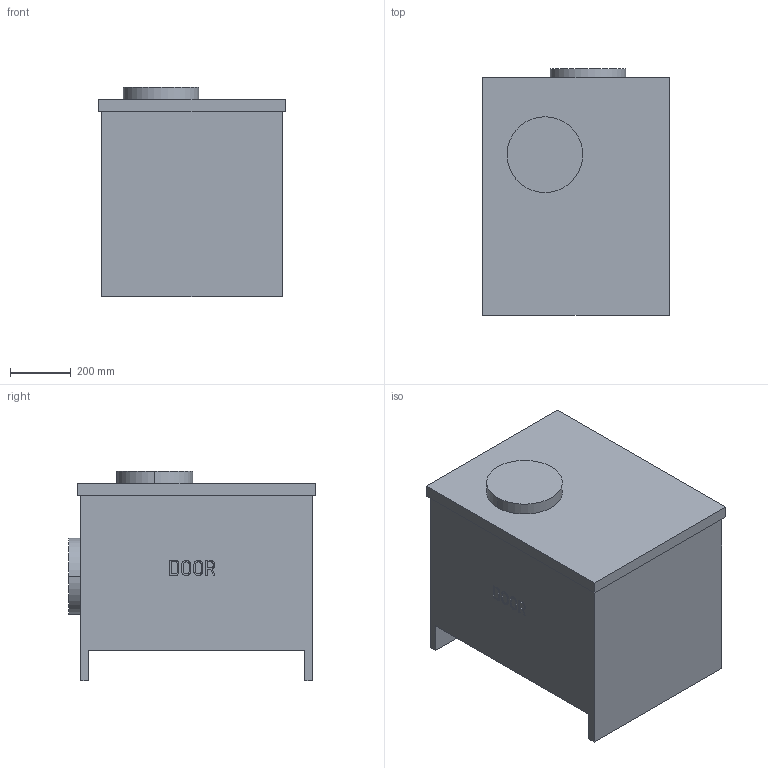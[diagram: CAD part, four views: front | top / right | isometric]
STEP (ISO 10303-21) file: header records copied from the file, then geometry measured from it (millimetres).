
FILE_DESCRIPTION(('STEP AP214'),'1');
FILE_NAME('Soundbox 225_250.stp','2019-11-26T10:17:29',(' '),(' '),'Spatial InterOp 3D',' ',' ');
FILE_SCHEMA(('AUTOMOTIVE_DESIGN { 1 0 10303 214 1 1 1 1 }'));
Length unit declared in the file: metre
Products named in the file (1): Solid1
Bounding box: 615 x 814 x 692 mm (x, y, z)
Volume: 258920745.4 mm3; surface area: 2783672 mm2
Topology: 1 solids, 1 shells, 87 faces, 222 edges, 148 vertices
Faces by surface type: plane 50, extrusion 33, cylinder 4
Entity records: 2958 total; most frequent: CARTESIAN_POINT 939, ORIENTED_EDGE 444, DIRECTION 307, EDGE_CURVE 222, VECTOR 181, VERTEX_POINT 148, LINE 148, B_SPLINE_CURVE_WITH_KNOTS 99
